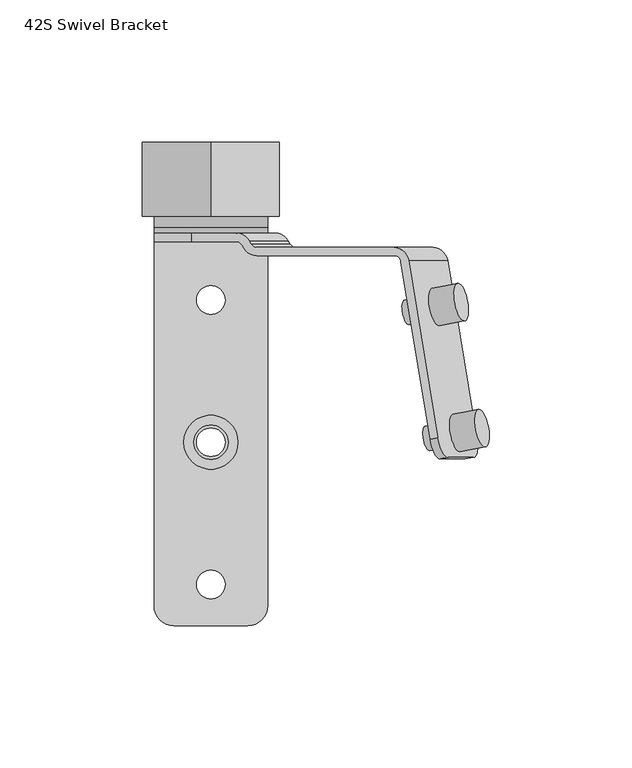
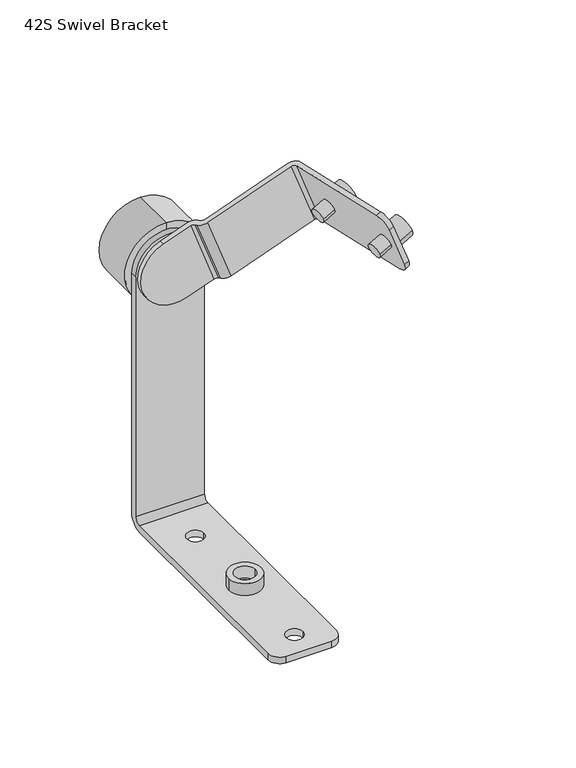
"""IFC4 building model written with IfcOpenShell, lengths in millimetres: proxy geometry, d&b xS-Series 42S Swivel Bracket : 42S Swivel Bracket."""

import ifcopenshell
import ifcopenshell.guid

model = None  # the IFC model being written
_history = None  # IfcOwnerHistory: only IFC2X3 demands one
_inside = {}  # id of a spatial element -> (the spatial element, [elements in it])
_under = {}  # id of a project, library or spatial element -> (it, [spatial elements below it])
_declared = {}  # id of a project -> (the project, [libraries it declares])
_typed = {}  # id of a type object -> (the type object, [elements of that type])
_made_of = {}  # id of a material, layer set ... -> (it, [elements and type objects made of it])


def new_model(schema):
    """Start an empty IFC model of exactly this schema.

    Asked for "IFC4X3", IfcOpenShell would pick the latest addendum, in which some entities
    have other attributes; the version numbers below select the first issue.
    IFC2X3 requires an IfcOwnerHistory on every rooted entity: one is made here for all.
    """
    global model, _history
    if schema == "IFC4X3":
        model = ifcopenshell.file(schema_version=(4, 3, 0, 0))
    else:
        model = ifcopenshell.file(schema=schema)
    _inside.clear()
    _under.clear()
    _declared.clear()
    _typed.clear()
    _made_of.clear()
    _history = None
    if model.schema == "IFC2X3":
        org = make("IfcOrganization", Name="unknown")
        user = make(
            "IfcPersonAndOrganization",
            ThePerson=make("IfcPerson", FamilyName="unknown"),
            TheOrganization=org,
        )
        app = make(
            "IfcApplication",
            ApplicationDeveloper=org,
            Version="unknown",
            ApplicationFullName="unknown",
            ApplicationIdentifier="unknown",
        )
        _history = make(
            "IfcOwnerHistory",
            OwningUser=user,
            OwningApplication=app,
            ChangeAction="ADDED",
            CreationDate=0,
        )
    return model


def make(cls, **values):
    """One entity of the class cls with the attributes given. An attribute that is None is left unset."""
    return model.create_entity(
        cls, **{name: value for name, value in values.items() if value is not None}
    )


def rooted(cls, **values):
    """An entity with a GlobalId (a new one), such as an element, a storey or a relation."""
    return make(cls, GlobalId=ifcopenshell.guid.new(), OwnerHistory=_history, **values)


def si_unit(unit_type, name, prefix=None):
    """IfcSIUnit, for example si_unit("LENGTHUNIT", "METRE", prefix="MILLI")."""
    return make("IfcSIUnit", UnitType=unit_type, Prefix=prefix, Name=name)


def assignment(units):
    """IfcUnitAssignment: the units of a project."""
    return None if units is None else make("IfcUnitAssignment", Units=units)


def point(xyz):
    """IfcCartesianPoint."""
    return None if xyz is None else make("IfcCartesianPoint", Coordinates=xyz)


def direction(xyz):
    """IfcDirection."""
    return None if xyz is None else make("IfcDirection", DirectionRatios=xyz)


def frame(location, z_axis=None, x_axis=None):
    """IfcAxis2Placement3D, a coordinate frame: its origin and axes. An axis left out is left unset."""
    return make(
        "IfcAxis2Placement3D",
        Location=point(location),
        Axis=direction(z_axis),
        RefDirection=direction(x_axis),
    )


def frame_2d(location, x_axis=None):
    """IfcAxis2Placement2D, a coordinate frame in the plane: its origin and x axis."""
    return make(
        "IfcAxis2Placement2D", Location=point(location), RefDirection=direction(x_axis)
    )


def origin():
    """The frame at (0, 0, 0) with its axes left unset."""
    return frame((0.0, 0.0, 0.0))


def origin_2d():
    """The frame at (0, 0) in the plane with its x axis left unset."""
    return frame_2d((0.0, 0.0))


def place(relative_to, where):
    """IfcLocalPlacement: puts the frame where relative to a parent placement (None: the world)."""
    return make(
        "IfcLocalPlacement", PlacementRelTo=relative_to, RelativePlacement=where
    )


def context(
    kind, dimensions, precision=None, world=None, true_north=None, identifier=None
):
    """IfcGeometricRepresentationContext, for example the 3D "Model" context."""
    return make(
        "IfcGeometricRepresentationContext",
        ContextIdentifier=identifier,
        ContextType=kind,
        CoordinateSpaceDimension=dimensions,
        Precision=precision,
        WorldCoordinateSystem=world,
        TrueNorth=true_north,
    )


def project(units=None, contexts=None):
    """IfcProject with its units and contexts."""
    return rooted(
        "IfcProject",
        Name="project",
        RepresentationContexts=contexts,
        UnitsInContext=assignment(units),
    )


def spatial(cls, under=None, at=None, **own):
    """A site, building, storey or space (cls), placed at a placement, below another one or the project."""
    s = rooted(cls, ObjectPlacement=at, **own)
    if under is not None:
        _under.setdefault(under.id(), (under, []))[1].append(s)
    return s


def polyline(points):
    """IfcPolyline through the points."""
    return make("IfcPolyline", Points=[point(p) for p in points])


def circle_curve(where, radius):
    """IfcCircle in the frame where."""
    return make("IfcCircle", Position=where, Radius=radius)


def trimmed(basis, trim1, trim2, sense, master):
    """IfcTrimmedCurve: the piece of a basis curve between two trims."""
    return make(
        "IfcTrimmedCurve",
        BasisCurve=basis,
        Trim1=trim1,
        Trim2=trim2,
        SenseAgreement=sense,
        MasterRepresentation=master,
    )


def segment(curve, same_sense, transition):
    """IfcCompositeCurveSegment."""
    return make(
        "IfcCompositeCurveSegment",
        Transition=transition,
        SameSense=same_sense,
        ParentCurve=curve,
    )


def composite_curve(segments, self_intersect=None):
    """IfcCompositeCurve: segments joined end to end."""
    return make("IfcCompositeCurve", Segments=segments, SelfIntersect=self_intersect)


def outline(outer, holes=None, kind="AREA"):
    """IfcArbitraryClosedProfileDef: a profile drawn as a closed curve; with holes, ...WithVoids."""
    if holes is None:
        return make("IfcArbitraryClosedProfileDef", ProfileType=kind, OuterCurve=outer)
    return make(
        "IfcArbitraryProfileDefWithVoids",
        ProfileType=kind,
        OuterCurve=outer,
        InnerCurves=holes,
    )


def extrude(swept, where, along, depth):
    """IfcExtrudedAreaSolid: the profile swept, set in the frame where, extruded along a direction by depth."""
    return make(
        "IfcExtrudedAreaSolid",
        SweptArea=swept,
        Position=where,
        ExtrudedDirection=direction(along),
        Depth=depth,
    )


def shape(context_of_items, identifier, shape_type, items):
    """IfcShapeRepresentation: the items that make up one representation, for example the "Body"."""
    return make(
        "IfcShapeRepresentation",
        ContextOfItems=context_of_items,
        RepresentationIdentifier=identifier,
        RepresentationType=shape_type,
        Items=items,
    )


def source(mapping_origin, context_of_items, identifier, shape_type, items):
    """IfcRepresentationMap: a shape defined once, which mapped items show again and again."""
    return make(
        "IfcRepresentationMap",
        MappingOrigin=mapping_origin,
        MappedRepresentation=shape(context_of_items, identifier, shape_type, items),
    )


def transform(
    local_origin,
    x_axis=None,
    y_axis=None,
    z_axis=None,
    scale=None,
    scale2=None,
    scale3=None,
    uniform=True,
):
    """IfcCartesianTransformationOperator3D, or its non-uniform kind. x_axis, y_axis, z_axis: its Axis1, 2, 3."""
    if uniform:
        return make(
            "IfcCartesianTransformationOperator3D",
            Axis1=direction(x_axis),
            Axis2=direction(y_axis),
            LocalOrigin=point(local_origin),
            Scale=scale,
            Axis3=direction(z_axis),
        )
    return make(
        "IfcCartesianTransformationOperator3DnonUniform",
        Axis1=direction(x_axis),
        Axis2=direction(y_axis),
        LocalOrigin=point(local_origin),
        Scale=scale,
        Axis3=direction(z_axis),
        Scale2=scale2,
        Scale3=scale3,
    )


def mapped(mapping_source, mapping_target):
    """IfcMappedItem: shows the shape of a source again, moved by a transform."""
    return make(
        "IfcMappedItem", MappingSource=mapping_source, MappingTarget=mapping_target
    )


def made_of(thing, what):
    """Note that an element or type object is made of a material, layer set ...; save() writes the relation."""
    if what is not None:
        _made_of.setdefault(what.id(), (what, []))[1].append(thing)
    return thing


def element(
    cls,
    number,
    at=None,
    inside=None,
    cuts=None,
    type_object=None,
    material=None,
    context=None,
    identifier="Body",
    shape_type=None,
    held_by="IfcProductDefinitionShape",
    body=None,
    shapes=None,
    **own,
):
    """One element of the class cls, such as IfcWall. Its Tag is "e" and its number.

    at: its placement. inside: the storey or other place that contains it. cuts: it is an
    opening in that element (IfcRelVoidsElement). A single representation is given by context,
    identifier, shape_type and body (its items); several are given by shapes. held_by: the class
    of the entity that holds the representations. save() writes the other relations.
    """
    e = rooted(cls, Tag="e%d" % number, ObjectPlacement=at, **own)
    if body is not None:
        shapes = [shape(context, identifier, shape_type, body)]
    if shapes is not None:
        e.Representation = make(held_by, Representations=shapes)
    if inside is not None:
        _inside.setdefault(inside.id(), (inside, []))[1].append(e)
    if cuts is not None:
        rooted(
            "IfcRelVoidsElement", RelatingBuildingElement=cuts, RelatedOpeningElement=e
        )
    if type_object is not None:
        _typed.setdefault(type_object.id(), (type_object, []))[1].append(e)
    return made_of(e, material)


def aggregate(whole, parts):
    """IfcRelAggregates: a whole, such as a stair, and the parts it consists of."""
    return rooted("IfcRelAggregates", RelatingObject=whole, RelatedObjects=parts)


def save(model, path):
    """Write the relations noted so far, then the file.

    IfcRelAggregates (storeys below a building ...), IfcRelContainedInSpatialStructure (elements
    in a storey), IfcRelDefinesByType, IfcRelAssociatesMaterial and IfcRelDeclares: one each for
    every whole, place, type object, material and project.
    """
    for whole, parts in _under.values():
        aggregate(whole, parts)
    for where, things in _inside.values():
        rooted(
            "IfcRelContainedInSpatialStructure",
            RelatedElements=things,
            RelatingStructure=where,
        )
    for kind, things in _typed.values():
        rooted("IfcRelDefinesByType", RelatedObjects=things, RelatingType=kind)
    for what, things in _made_of.values():
        rooted("IfcRelAssociatesMaterial", RelatedObjects=things, RelatingMaterial=what)
    for by, libraries in _declared.values():
        rooted("IfcRelDeclares", RelatingContext=by, RelatedDefinitions=libraries)
    model.write(path)


def plane_surface(at):
    """IfcPlane: the flat surface through the origin of the frame at, square to its z axis."""
    return make("IfcPlane", Position=at)


def cylinder_surface(at, radius):
    """IfcCylindricalSurface: all points at the distance radius from the z axis of the frame at."""
    return make("IfcCylindricalSurface", Position=at, Radius=radius)


def revolved_surface(curve, axis_point, axis_direction):
    """IfcSurfaceOfRevolution: the curve turned about the line through axis_point along axis_direction."""
    return make(
        "IfcSurfaceOfRevolution",
        SweptCurve=make("IfcArbitraryOpenProfileDef", ProfileType="CURVE", Curve=curve),
        AxisPosition=make("IfcAxis1Placement", Location=point(axis_point), Axis=direction(axis_direction)),
    )


def advanced_brep(points, edges, surfaces, faces):
    """IfcAdvancedBrep: a solid bounded by faces that lie on surfaces and meet in shared edges.

    An edge is (start, end): straight between two places in points (the first is 0);
    or (start, end, curve); or (start, end, curve, False) where it runs against its curve.
    A face is (place in surfaces, loops), or (place, loops, False) where it looks against
    its surface's normal. A loop lists edges by number (the first is 1), with a minus sign
    where the edge is run from its end to its start. The first loop is the outer one.
    """
    corners = [point(p) for p in points]
    vertices = [make("IfcVertexPoint", VertexGeometry=c) for c in corners]
    made = []
    for start, end, *more in edges:
        made.append(
            make(
                "IfcEdgeCurve",
                EdgeStart=vertices[start],
                EdgeEnd=vertices[end],
                EdgeGeometry=more[0] if more else make("IfcPolyline", Points=[corners[start], corners[end]]),
                SameSense=more[1] if len(more) > 1 else True,
            )
        )
    hull = []
    for where, loops, *sense in faces:
        bounds = []
        for j, loop in enumerate(loops):
            ring = [make("IfcOrientedEdge", EdgeElement=made[abs(k) - 1], Orientation=k > 0) for k in loop]
            bounds.append(
                make(
                    "IfcFaceOuterBound" if j == 0 else "IfcFaceBound",
                    Bound=make("IfcEdgeLoop", EdgeList=ring),
                    Orientation=True,
                )
            )
        hull.append(make("IfcAdvancedFace", Bounds=bounds, FaceSurface=surfaces[where], SameSense=sense[0] if sense else True))
    return make("IfcAdvancedBrep", Outer=make("IfcClosedShell", CfsFaces=hull))


def proxy_42s_swivel_bracket_58c8d276(model_context):
    return source(origin(), model_context, "Body", "SolidModel", [
        extrude(outline(composite_curve([segment(trimmed(circle_curve(frame_2d((0.0, 6.707269)), 6.7072689), [point((0.0, 13.4145379))], [point((0.0, 0.0))], False, "CARTESIAN"), True, "CONTINUOUS"), segment(trimmed(circle_curve(frame_2d((0.0, 6.707269)), 6.7072689), [point((0.0, 0.0))], [point((0.0, 13.4145379))], False, "CARTESIAN"), True, "CONTINUOUS")], self_intersect=False)), frame((80.1887594, 40.9628223, 28.9903002), z_axis=(0.9254165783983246, 0.17364817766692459, 0.33682408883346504), x_axis=(0.3420201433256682, 0.0, -0.9396926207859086)), (0.0, 0.0, 1.0), 9.6),
        extrude(outline(composite_curve([segment(trimmed(circle_curve(frame_2d((0.0, 6.7072689)), 6.7072689), [point((-1e-07, 13.4145378))], [point((0.0, 0.0))], False, "CARTESIAN"), True, "CONTINUOUS"), segment(trimmed(circle_curve(frame_2d((0.0, 6.7072689)), 6.7072689), [point((0.0, 0.0))], [point((-1e-07, 13.4145378))], False, "CARTESIAN"), True, "CONTINUOUS")], self_intersect=False)), frame((87.5316754, -3.3535265, 31.662903), z_axis=(0.9254165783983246, 0.17364817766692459, 0.33682408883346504), x_axis=(0.3420201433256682, 0.0, -0.9396926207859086)), (0.0, 0.0, 1.0), 9.6),
        advanced_brep(
        [(6.842462, 70.4953575, -18.7931029), (22.6658895, 70.4953575, -13.0338464), (8.9850837, 70.4953575, 24.5538585), (-6.8383437, 70.4953575, 18.7946019), (-6.8383437, 73.4953575, 18.7946019), (8.9301199, 73.4953575, 24.5338533), (22.6109256, 73.4953575, -13.0538516), (6.842462, 73.4953575, -18.7931029), (77.0431158, 1.0074858, 49.3249564), (79.8193656, 1.5284303, 50.3354286), (69.4901604, 63.8677873, 46.5759054), (64.3078275, 68.4953575, 44.6896905), (16.0407589, 68.4953575, 27.1219142), (14.0119763, 69.7366012, 26.3834978), (13.4777546, 70.7130373, 26.1890569), (11.0415217, 69.203566, 25.3023407), (11.548088, 68.2776777, 25.4867158), (16.0957227, 65.4953575, 27.1419194), (64.7365761, 65.4953575, 44.8457422), (66.7050032, 63.4006011, 45.5621911), (93.5001713, 1.5284303, 12.7477238), (90.7239216, 1.0074858, 11.7372515), (80.385809, 63.4006011, 7.9744863), (78.4173818, 65.4953575, 7.2580374), (29.7765285, 65.4953575, -10.4457854), (25.2288938, 68.2776777, -12.1009891), (24.7223275, 69.203566, -12.2853641), (27.1585603, 70.7130373, -11.3986479), (27.6927821, 69.7366012, -11.2042071), (29.7215646, 68.4953575, -10.4657906), (77.9886332, 68.4953575, 7.1019857), (83.1709661, 63.8677873, 8.9882006), (89.4720119, -5.8861685, 18.7308381), (80.5794882, -5.8861685, 43.1628462), (83.355738, -5.365224, 44.1733185), (92.2482617, -5.365224, 19.7413104)],
        [
            (0, 1),
            (1, 2),
            (2, 3),
            (3, 0, circle_curve(frame((0.0020592, 70.4953575, 0.0007495), z_axis=(0.0, -1.0, 0.0), x_axis=(0.9396926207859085, 0.0, 0.3420201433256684)), 20.0)),
            (4, 5),
            (5, 6),
            (6, 7),
            (7, 4, circle_curve(frame((0.0020592, 73.4953575, 0.0007495), z_axis=(0.0, 1.0, 0.0), x_axis=(0.9396926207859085, 0.0, 0.3420201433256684)), 20.0)),
            (3, 4),
            (7, 0),
            (8, 9),
            (9, 10),
            (10, 11, circle_curve(frame((64.3078275, 62.8953575, 44.6896905), z_axis=(-0.3420201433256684, 0.0, 0.9396926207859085), x_axis=(-0.9396926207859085, 0.0, -0.3420201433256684)), 5.6)),
            (11, 12),
            (12, 13, circle_curve(frame((16.0407589, 70.9936194, 27.1219142), z_axis=(0.3420201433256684, 0.0, -0.9396926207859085), x_axis=(-0.9396926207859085, 0.0, -0.3420201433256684)), 2.4982619)),
            (13, 14),
            (14, 5, circle_curve(frame((8.9301199, 67.8953575, 24.5338533), z_axis=(-0.3420201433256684, 0.0, 0.9396926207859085), x_axis=(-0.9396926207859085, 0.0, -0.3420201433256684)), 5.6)),
            (2, 15, circle_curve(frame((8.9290007, 67.8946641, 24.5334459), z_axis=(0.3420201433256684, 0.0, -0.9396926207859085), x_axis=(-0.9396926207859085, 0.0, -0.3420201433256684)), 2.6013781)),
            (15, 16),
            (16, 17, circle_curve(frame((16.0957227, 71.0953575, 27.1419194), z_axis=(-0.3420201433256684, 0.0, 0.9396926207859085), x_axis=(-0.9396926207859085, 0.0, -0.3420201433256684)), 5.6)),
            (17, 18),
            (18, 19, circle_curve(frame((64.7365761, 63.4006011, 44.8457422), z_axis=(0.3420201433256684, 0.0, -0.9396926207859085), x_axis=(-0.9396926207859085, 0.0, -0.3420201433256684)), 2.0947564)),
            (19, 8),
            (20, 21),
            (21, 22),
            (22, 23, circle_curve(frame((78.4173818, 63.4006011, 7.2580374), z_axis=(-0.3420201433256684, 0.0, 0.9396926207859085), x_axis=(-0.9396926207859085, 0.0, -0.3420201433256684)), 2.0947564)),
            (23, 24),
            (24, 25, circle_curve(frame((29.7765285, 71.0953575, -10.4457854), z_axis=(0.3420201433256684, 0.0, -0.9396926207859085), x_axis=(-0.9396926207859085, 0.0, -0.3420201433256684)), 5.6)),
            (25, 26),
            (26, 1, circle_curve(frame((22.6098065, 67.8946641, -13.0542589), z_axis=(-0.3420201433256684, 0.0, 0.9396926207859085), x_axis=(-0.9396926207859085, 0.0, -0.3420201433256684)), 2.6013781)),
            (6, 27, circle_curve(frame((22.6109256, 67.8953575, -13.0538516), z_axis=(0.3420201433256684, 0.0, -0.9396926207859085), x_axis=(-0.9396926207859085, 0.0, -0.3420201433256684)), 5.6)),
            (27, 28),
            (28, 29, circle_curve(frame((29.7215646, 70.9936194, -10.4657906), z_axis=(-0.3420201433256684, 0.0, 0.9396926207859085), x_axis=(-0.9396926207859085, 0.0, -0.3420201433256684)), 2.4982619)),
            (29, 30),
            (30, 31, circle_curve(frame((77.9886332, 62.8953575, 7.1019857), z_axis=(0.3420201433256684, 0.0, -0.9396926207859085), x_axis=(-0.9396926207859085, 0.0, -0.3420201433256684)), 5.6)),
            (31, 20),
            (19, 22),
            (21, 32, circle_curve(frame((88.3297806, 1.0074858, 18.3150999), z_axis=(-0.9254165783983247, -0.17364817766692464, -0.3368240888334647), x_axis=(0.16317591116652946, -0.9848077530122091, 0.059391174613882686)), 7.0)),
            (32, 33),
            (33, 8, circle_curve(frame((79.4372568, 1.0074858, 42.747108), z_axis=(-0.9254165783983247, -0.17364817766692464, -0.3368240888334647), x_axis=(0.16317591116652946, -0.9848077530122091, 0.059391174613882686)), 7.0)),
            (18, 23),
            (17, 24),
            (16, 25),
            (15, 26),
            (14, 27),
            (13, 28),
            (12, 29),
            (11, 30),
            (10, 31),
            (9, 34, circle_curve(frame((82.2135066, 1.5284303, 43.7575803), z_axis=(0.9254165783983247, 0.17364817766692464, 0.3368240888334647), x_axis=(0.16317591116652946, -0.9848077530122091, 0.059391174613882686)), 7.0)),
            (34, 35),
            (35, 20, circle_curve(frame((91.1060303, 1.5284303, 19.3255721), z_axis=(0.9254165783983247, 0.17364817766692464, 0.3368240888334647), x_axis=(0.16317591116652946, -0.9848077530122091, 0.059391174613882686)), 7.0)),
            (33, 34),
            (32, 35),
        ],
        [
            plane_surface(frame((18.7959116, 70.4953575, 6.8411523), z_axis=(0.0, -1.0, 0.0), x_axis=(0.3420201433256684, 0.0, -0.9396926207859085))),
            plane_surface(frame((18.7959116, 73.4953575, 6.8411523), z_axis=(0.0, 1.0, 0.0), x_axis=(-0.3420201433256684, 0.0, 0.9396926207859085))),
            cylinder_surface(frame((0.0020592, 73.4953575, 0.0007495), z_axis=(0.0, -1.0, 0.0), x_axis=(0.9396926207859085, 0.0, 0.3420201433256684)), 20.0),
            plane_surface(frame((66.7050032, 63.4006011, 45.5621911), z_axis=(-0.3420201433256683, 0.0, 0.9396926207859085), x_axis=(-0.16317591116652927, 0.9848077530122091, -0.0593911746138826))),
            plane_surface(frame((80.385809, 63.4006011, 7.9744863), z_axis=(0.3420201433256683, 0.0, -0.9396926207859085), x_axis=(0.16317591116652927, -0.9848077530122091, 0.0593911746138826))),
            plane_surface(frame((77.0431158, 1.0074858, 49.3249564), z_axis=(-0.9254165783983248, -0.1736481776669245, -0.33682408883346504), x_axis=(0.34202014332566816, 0.0, -0.9396926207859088))),
            revolved_surface(polyline([(76.44895467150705, 63.4006011, 6.54158850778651), (62.76814894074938, 63.4006011, 44.12929333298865)]), (78.4173818, 63.4006011, 7.2580374), (0.3420201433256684, 0.0, -0.9396926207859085)),
            plane_surface(frame((64.7365761, 65.4953575, 44.8457422), z_axis=(0.0, -1.0, 0.0), x_axis=(0.3420201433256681, 0.0, -0.9396926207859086))),
            cylinder_surface(frame((29.7765285, 71.0953575, -10.4457854), z_axis=(-0.3420201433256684, 0.0, 0.9396926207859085), x_axis=(-0.9396926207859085, 0.0, -0.3420201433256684)), 5.6),
            plane_surface(frame((11.548088, 68.2776777, 25.4867158), z_axis=(-0.8120776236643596, -0.5031571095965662, -0.29557208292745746), x_axis=(0.34202014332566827, 0.0, -0.9396926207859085))),
            revolved_surface(polyline([(20.16531070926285, 67.8946641, -13.943982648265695), (6.484504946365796, 67.8946641, 23.643722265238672)]), (22.6098065, 67.8946641, -13.0542589), (0.3420201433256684, 0.0, -0.9396926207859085)),
            cylinder_surface(frame((22.6109256, 67.8953575, -13.0538516), z_axis=(-0.3420201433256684, 0.0, 0.9396926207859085), x_axis=(-0.9396926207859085, 0.0, -0.3420201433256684)), 5.6),
            plane_surface(frame((13.4777546, 70.7130373, 26.1890569), z_axis=(0.8120776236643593, 0.5031571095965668, 0.29557208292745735), x_axis=(0.34202014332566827, 0.0, -0.9396926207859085))),
            revolved_surface(polyline([(27.37396634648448, 70.9936194, -11.320246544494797), (13.693160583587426, 70.9936194, 26.267458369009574)]), (29.7215646, 70.9936194, -10.4657906), (0.3420201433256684, 0.0, -0.9396926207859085)),
            plane_surface(frame((16.0407589, 68.4953575, 27.1219142), z_axis=(0.0, 1.0, 0.0), x_axis=(0.34202014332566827, 0.0, -0.9396926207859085))),
            cylinder_surface(frame((77.9886332, 62.8953575, 7.1019857), z_axis=(-0.3420201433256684, 0.0, 0.9396926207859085), x_axis=(-0.9396926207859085, 0.0, -0.3420201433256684)), 5.6),
            plane_surface(frame((69.4901604, 63.8677873, 46.5759054), z_axis=(0.9254165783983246, 0.17364817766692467, 0.33682408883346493), x_axis=(0.3420201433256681, 0.0, -0.9396926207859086))),
            cylinder_surface(frame((82.2135066, 1.5284303, 43.7575803), z_axis=(-0.9254165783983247, -0.17364817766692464, -0.3368240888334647), x_axis=(0.16317591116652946, -0.9848077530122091, 0.059391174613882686)), 7.0),
            plane_surface(frame((80.5794882, -5.8861685, 43.1628462), z_axis=(0.16317591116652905, -0.9848077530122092, 0.05939117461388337), x_axis=(0.9254165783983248, 0.17364817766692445, 0.3368240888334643))),
            cylinder_surface(frame((91.1060303, 1.5284303, 19.3255721), z_axis=(-0.9254165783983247, -0.17364817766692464, -0.3368240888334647), x_axis=(0.16317591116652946, -0.9848077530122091, 0.059391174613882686)), 7.0),
        ],
        [
            (0, [[1, 2, 3, 4]]),
            (1, [[5, 6, 7, 8]]),
            (2, [[9, -8, 10, -4]]),
            (3, [[11, 12, 13, 14, 15, 16, 17, -5, -9, -3, 18, 19, 20, 21, 22, 23]]),
            (4, [[24, 25, 26, 27, 28, 29, 30, -1, -10, -7, 31, 32, 33, 34, 35, 36]]),
            (5, [[37, -25, 38, 39, 40, -23]]),
            (6, [[41, -26, -37, -22]]),
            (7, [[42, -27, -41, -21]]),
            (8, [[43, -28, -42, -20]]),
            (9, [[44, -29, -43, -19]]),
            (10, [[-2, -30, -44, -18]]),
            (11, [[45, -31, -6, -17]]),
            (12, [[46, -32, -45, -16]]),
            (13, [[47, -33, -46, -15]]),
            (14, [[48, -34, -47, -14]]),
            (15, [[49, -35, -48, -13]]),
            (16, [[50, 51, 52, -36, -49, -12]]),
            (17, [[53, -50, -11, -40]]),
            (18, [[54, -51, -53, -39]]),
            (19, [[-24, -52, -54, -38]]),
        ],
    ),
        advanced_brep(
        [(20.0021913, 79.4953575, 0.0), (20.0021913, 75.4953575, 0.0), (20.0021913, 75.4953575, -147.6), (20.0021913, 72.0953575, -151.0), (20.0021913, -57.5046425, -151.0), (20.0021913, -57.5046425, -155.0), (20.0021913, 72.0953575, -155.0), (20.0021913, 79.4953575, -147.6), (-19.9978087, 75.4953575, 0.0), (-19.9978087, 79.4953575, 0.0), (-19.9978087, 79.4953575, -147.6), (-19.9978087, 72.0953575, -155.0), (-19.9978087, -57.53477, -155.0), (-19.9978087, -57.53477, -151.0), (-19.9978087, 72.0953575, -151.0), (-19.9978087, 75.4953575, -147.6), (13.0021913, -64.5046425, -151.0), (-13.0279363, -64.5046425, -151.0), (-5.0, 0.0, -151.0), (5.0, 0.0, -151.0), (-5.0, -50.0, -151.0), (5.0, -50.0, -151.0), (-5.0, 50.0, -151.0), (5.0, 50.0, -151.0), (13.0021913, -64.5046425, -155.0), (-13.0279363, -64.5046425, -155.0), (-5.0, 0.0, -155.0), (5.0, 0.0, -155.0), (-5.0, -50.0, -155.0), (5.0, -50.0, -155.0), (-5.0, 50.0, -155.0), (5.0, 50.0, -155.0)],
        [
            (0, 1),
            (1, 2),
            (2, 3, circle_curve(frame((20.0021913, 72.0953575, -147.6), z_axis=(-1.0, 0.0, 0.0), x_axis=(0.0, -1.0, 0.0)), 3.4)),
            (3, 4),
            (4, 5),
            (5, 6),
            (6, 7, circle_curve(frame((20.0021913, 72.0953575, -147.6), z_axis=(1.0, 0.0, 0.0), x_axis=(0.0, -1.0, 0.0)), 7.4)),
            (7, 0),
            (8, 9),
            (9, 10),
            (10, 11, circle_curve(frame((-19.9978087, 72.0953575, -147.6), z_axis=(-1.0, 0.0, 0.0), x_axis=(0.0, -1.0, 0.0)), 7.4)),
            (11, 12),
            (12, 13),
            (13, 14),
            (14, 15, circle_curve(frame((-19.9978087, 72.0953575, -147.6), z_axis=(1.0, 0.0, 0.0), x_axis=(0.0, -1.0, 0.0)), 3.4)),
            (15, 8),
            (7, 10),
            (9, 0, circle_curve(frame((0.0021913, 79.4953575, 0.0), z_axis=(0.0, 1.0, 0.0), x_axis=(1.0, 0.0, 0.0)), 20.0)),
            (6, 11),
            (2, 15),
            (14, 3),
            (1, 8, circle_curve(frame((0.0021913, 75.4953575, 0.0), z_axis=(0.0, -1.0, 0.0), x_axis=(1.0, 0.0, 0.0)), 20.0)),
            (16, 4, circle_curve(frame((13.0021913, -57.5046425, -151.0), z_axis=(0.0, 0.0, 1.0), x_axis=(1.0, 0.0, 0.0)), 7.0)),
            (13, 17, circle_curve(frame((-13.0279363, -57.53477, -151.0), z_axis=(0.0, 0.0, 1.0), x_axis=(1.0, 0.0, 0.0)), 6.9698724)),
            (17, 16),
            (18, 19, circle_curve(frame((0.0, 0.0, -151.0), z_axis=(0.0, 0.0, -1.0), x_axis=(1.0, 0.0, 0.0)), 5.0)),
            (19, 18, circle_curve(frame((0.0, 0.0, -151.0), z_axis=(0.0, 0.0, -1.0), x_axis=(1.0, 0.0, 0.0)), 5.0)),
            (20, 21, circle_curve(frame((0.0, -50.0, -151.0), z_axis=(0.0, 0.0, -1.0), x_axis=(1.0, 0.0, 0.0)), 5.0)),
            (21, 20, circle_curve(frame((0.0, -50.0, -151.0), z_axis=(0.0, 0.0, -1.0), x_axis=(1.0, 0.0, 0.0)), 5.0)),
            (22, 23, circle_curve(frame((0.0, 50.0, -151.0), z_axis=(0.0, 0.0, -1.0), x_axis=(1.0, 0.0, 0.0)), 5.0)),
            (23, 22, circle_curve(frame((0.0, 50.0, -151.0), z_axis=(0.0, 0.0, -1.0), x_axis=(1.0, 0.0, 0.0)), 5.0)),
            (24, 25),
            (25, 12, circle_curve(frame((-13.0279363, -57.53477, -155.0), z_axis=(0.0, 0.0, -1.0), x_axis=(1.0, 0.0, 0.0)), 6.9698724)),
            (5, 24, circle_curve(frame((13.0021913, -57.5046425, -155.0), z_axis=(0.0, 0.0, -1.0), x_axis=(1.0, 0.0, 0.0)), 7.0)),
            (26, 27, circle_curve(frame((0.0, 0.0, -155.0), z_axis=(0.0, 0.0, 1.0), x_axis=(1.0, 0.0, 0.0)), 5.0)),
            (27, 26, circle_curve(frame((0.0, 0.0, -155.0), z_axis=(0.0, 0.0, 1.0), x_axis=(1.0, 0.0, 0.0)), 5.0)),
            (28, 29, circle_curve(frame((0.0, -50.0, -155.0), z_axis=(0.0, 0.0, 1.0), x_axis=(1.0, 0.0, 0.0)), 5.0)),
            (29, 28, circle_curve(frame((0.0, -50.0, -155.0), z_axis=(0.0, 0.0, 1.0), x_axis=(1.0, 0.0, 0.0)), 5.0)),
            (30, 31, circle_curve(frame((0.0, 50.0, -155.0), z_axis=(0.0, 0.0, 1.0), x_axis=(1.0, 0.0, 0.0)), 5.0)),
            (31, 30, circle_curve(frame((0.0, 50.0, -155.0), z_axis=(0.0, 0.0, 1.0), x_axis=(1.0, 0.0, 0.0)), 5.0)),
            (17, 25),
            (24, 16),
            (19, 27),
            (26, 18),
            (21, 29),
            (28, 20),
            (23, 31),
            (30, 22),
        ],
        [
            plane_surface(frame((20.0021913, 79.4953575, -222.6), z_axis=(1.0, 0.0, 0.0), x_axis=(0.0, 0.0, -1.0))),
            plane_surface(frame((-19.9978087, 79.4953575, -222.6), z_axis=(-1.0, 0.0, 0.0), x_axis=(0.0, 0.0, 1.0))),
            plane_surface(frame((20.0021913, 79.4953575, 0.0), z_axis=(0.0, 1.0, 0.0), x_axis=(-1.0, 0.0, 0.0))),
            cylinder_surface(frame((-19.9978087, 72.0953575, -147.6), z_axis=(1.0, 0.0, 0.0), x_axis=(0.0, -1.0, 0.0)), 7.4),
            revolved_surface(polyline([(-19.9978087, 68.6953575, -147.6), (20.0021913, 68.6953575, -147.6)]), (-19.9978087, 72.0953575, -147.6), (-1.0, 0.0, 0.0)),
            plane_surface(frame((20.0021913, 75.4953575, -147.6), z_axis=(0.0, -1.0, 0.0), x_axis=(-1.0, 0.0, 0.0))),
            plane_surface(frame((-19.9978087, -64.5046425, -151.0), z_axis=(0.0, 0.0, 1.0), x_axis=(-1.0, 0.0, 0.0))),
            plane_surface(frame((-19.9978087, -64.5046425, -155.0), z_axis=(0.0, 0.0, -1.0), x_axis=(1.0, 0.0, 0.0))),
            plane_surface(frame((13.0021913, -64.5046425, -151.0), z_axis=(0.0, -1.0, 0.0), x_axis=(0.0, 0.0, -1.0))),
            cylinder_surface(frame((-13.0279363, -57.53477, -155.0), z_axis=(0.0, 0.0, 1.0), x_axis=(1.0, 0.0, 0.0)), 6.9698724),
            cylinder_surface(frame((13.0021913, -57.5046425, -155.0), z_axis=(0.0, 0.0, 1.0), x_axis=(1.0, 0.0, 0.0)), 7.0),
            revolved_surface(polyline([(5.0, 0.0, -155.0), (5.0, 0.0, -151.0)]), (0.0, 0.0, 0.0), (0.0, 0.0, -1.0)),
            revolved_surface(polyline([(5.0, -50.0, -155.0), (5.0, -50.0, -151.0)]), (0.0, -50.0, 0.0), (0.0, 0.0, -1.0)),
            revolved_surface(polyline([(5.0, 50.0, -155.0), (5.0, 50.0, -151.0)]), (0.0, 50.0, 0.0), (0.0, 0.0, -1.0)),
            cylinder_surface(frame((0.0021913, 75.4953575, 0.0), z_axis=(0.0, 1.0, 0.0), x_axis=(1.0, 0.0, 0.0)), 20.0),
        ],
        [
            (0, [[1, 2, 3, 4, 5, 6, 7, 8]]),
            (1, [[9, 10, 11, 12, 13, 14, 15, 16]]),
            (2, [[17, -10, 18, -8]]),
            (3, [[19, -11, -17, -7]]),
            (4, [[20, -15, 21, -3]]),
            (5, [[22, -16, -20, -2]]),
            (6, [[23, -4, -21, -14, 24, 25], [26, 27], [28, 29], [30, 31]]),
            (7, [[32, 33, -12, -19, -6, 34], [35, 36], [37, 38], [39, 40]]),
            (8, [[41, -32, 42, -25]]),
            (9, [[-13, -33, -41, -24]]),
            (10, [[-42, -34, -5, -23]]),
            (11, [[43, -35, 44, -27]]),
            (11, [[-44, -36, -43, -26]]),
            (12, [[45, -37, 46, -29]]),
            (12, [[-46, -38, -45, -28]]),
            (13, [[47, -39, 48, -31]]),
            (13, [[-48, -40, -47, -30]]),
            (14, [[-9, -22, -1, -18]]),
        ],
    ),
        extrude(outline(composite_curve([segment(trimmed(circle_curve(origin_2d(), 9.4940159), [point((-9.4940159, 0.0))], [point((9.4940159, 0.0))], False, "CARTESIAN"), True, "CONTINUOUS"), segment(trimmed(circle_curve(origin_2d(), 9.4940159), [point((9.4940159, 0.0))], [point((-9.4940159, 0.0))], False, "CARTESIAN"), True, "CONTINUOUS")], self_intersect=False), holes=[composite_curve([segment(trimmed(circle_curve(origin_2d(), 6.0264841), [point((-6.0264841, 0.0))], [point((6.0264841, 0.0))], True, "CARTESIAN"), True, "CONTINUOUS"), segment(trimmed(circle_curve(origin_2d(), 6.0264841), [point((6.0264841, 0.0))], [point((-6.0264841, 0.0))], True, "CARTESIAN"), True, "CONTINUOUS")], self_intersect=False)]), frame((0.0, 0.0, -151.0), z_axis=(0.0, 0.0, 1.0), x_axis=(1.0, 0.0, 0.0)), (0.0, 0.0, 1.0), 7.6),
        extrude(outline(composite_curve([segment(trimmed(circle_curve(frame_2d((0.0, 4.375)), 4.375), [point((0.0, 8.75))], [point((0.0, 0.0))], False, "CARTESIAN"), True, "CONTINUOUS"), segment(trimmed(circle_curve(frame_2d((0.0, 4.375)), 4.375), [point((0.0, 0.0))], [point((0.0, 8.75))], False, "CARTESIAN"), True, "CONTINUOUS")], self_intersect=False)), frame((69.5360652, 41.3321641, 25.1130366), z_axis=(0.9254165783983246, 0.17364817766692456, 0.33682408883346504), x_axis=(0.3420201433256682, 0.0, -0.9396926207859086)), (0.0, 0.0, 1.0), 8.1),
        extrude(outline(composite_curve([segment(trimmed(circle_curve(frame_2d((0.0, 4.375)), 4.375), [point((-1e-07, 8.75))], [point((0.0, 0.0))], False, "CARTESIAN"), True, "CONTINUOUS"), segment(trimmed(circle_curve(frame_2d((0.0, 4.375)), 4.375), [point((0.0, 0.0))], [point((-1e-07, 8.75))], False, "CARTESIAN"), True, "CONTINUOUS")], self_intersect=False)), frame((76.8789812, -2.9841848, 27.7856394), z_axis=(0.9254165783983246, 0.17364817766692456, 0.33682408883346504), x_axis=(0.3420201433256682, 0.0, -0.9396926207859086)), (0.0, 0.0, 1.0), 8.1),
        advanced_brep(
        [(0.0, 79.4953575, -24.1351733), (0.0, 79.4953575, 0.0), (0.0, 79.4953575, 24.1351733), (0.0, 105.4217862, -24.1351733), (0.0, 105.4217862, 24.1351733), (0.0, 105.4217862, 0.0)],
        [
            (0, 1),
            (1, 2),
            (2, 0, circle_curve(frame((0.0, 79.4953575, 0.0), z_axis=(0.0, -1.0, 0.0), x_axis=(0.0, 0.0, 1.0)), 24.1351733)),
            (0, 2, circle_curve(frame((0.0, 79.4953575, 0.0), z_axis=(0.0, -1.0, 0.0), x_axis=(0.0, 0.0, 1.0)), 24.1351733)),
            (3, 0),
            (2, 4),
            (4, 3, circle_curve(frame((0.0, 105.4217862, 0.0), z_axis=(0.0, -1.0, 0.0), x_axis=(0.0, 0.0, 1.0)), 24.1351733)),
            (3, 4, circle_curve(frame((0.0, 105.4217862, 0.0), z_axis=(0.0, -1.0, 0.0), x_axis=(0.0, 0.0, 1.0)), 24.1351733)),
            (5, 3),
            (4, 5),
        ],
        [
            plane_surface(frame((0.0, 79.4953575, 0.0), z_axis=(0.0, -1.0, 0.0), x_axis=(0.0, 0.0, 1.0))),
            cylinder_surface(frame((0.0, 115.4217862, 0.0), z_axis=(0.0, 1.0, 0.0), x_axis=(0.0, 0.0, 1.0)), 24.1351733),
            plane_surface(frame((0.0, 105.4217862, 0.0), z_axis=(0.0, 1.0, 0.0), x_axis=(0.0, 0.0, 1.0))),
        ],
        [
            (0, [[1, 2, 3]]),
            (0, [[-2, -1, 4]]),
            (1, [[5, -3, 6, 7]]),
            (1, [[-6, -4, -5, 8]]),
            (2, [[9, -7, 10]]),
            (2, [[-10, -8, -9]]),
        ],
    ),
    ])


if __name__ == "__main__":
    model = new_model("IFC4")
    model_context = context("Model", 3, world=origin())
    ifc_project = project(units=[si_unit("LENGTHUNIT", "METRE", prefix="MILLI")], contexts=[model_context])
    site = spatial("IfcSite", under=ifc_project)
    building = spatial("IfcBuilding", under=site)
    placement = place(None, origin())
    proxy_42s_swivel_bracket_shape = proxy_42s_swivel_bracket_58c8d276(model_context)
    element("IfcBuildingElementProxy", 1, Name="d&b xS-Series 42S Swivel Bracket : 42S Swivel Bracket", ObjectType="d&b xS-Series 42S Swivel Bracket : 42S Swivel Bracket", at=placement, inside=building, context=model_context, shape_type="MappedRepresentation", body=[
        mapped(proxy_42s_swivel_bracket_shape, transform((0.0, 0.0, 0.0), x_axis=(1.0, 0.0, 0.0), y_axis=(0.0, 1.0, 0.0), z_axis=(0.0, 0.0, 1.0))),
    ])
    save(model, "model.ifc")
